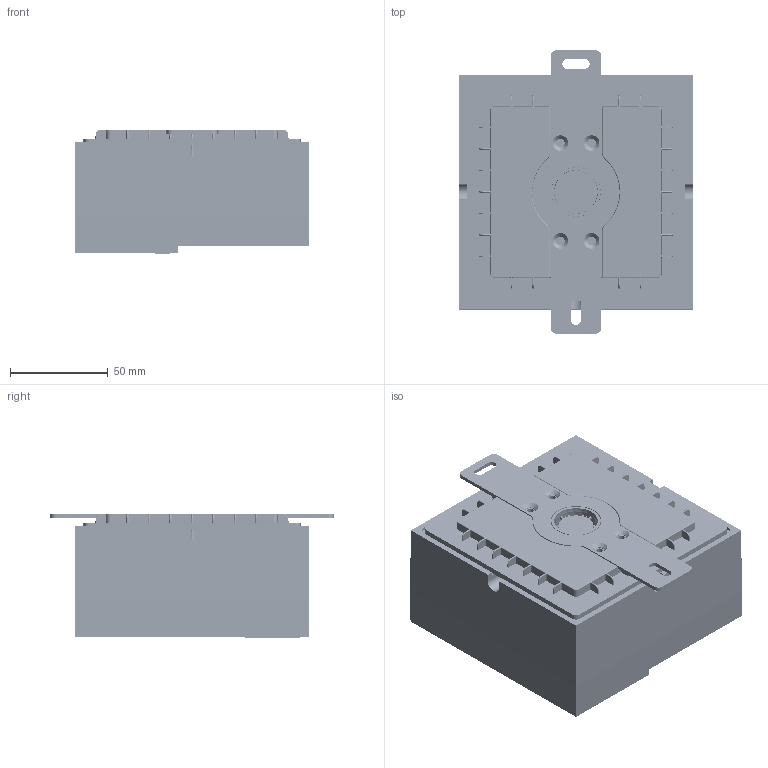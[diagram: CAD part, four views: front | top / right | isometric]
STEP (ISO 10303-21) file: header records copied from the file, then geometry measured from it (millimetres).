
FILE_DESCRIPTION((''),'2;1');
FILE_NAME('120-FBD_ASM','2021-07-26T',('Administrator'),(''),'PRO/ENGINEER BY PARAMETRIC TECHNOLOGY CORPORATION, 2010480','PRO/ENGINEER BY PARAMETRIC TECHNOLOGY CORPORATION, 2010480','');
FILE_SCHEMA(('CONFIG_CONTROL_DESIGN'));
Products named in the file (26): 1CV_; 7SQW18_FL2_15_6; 7SQW16-180-1_14; 120-YMT-DP_2; ZHUAN_JIE_BAN; M5_____; 120-YMT_ASM_10_ASM; 7CV; 7SQW18_KAHUANG_21_9; 120-FSQ_5; SCREW-M12_1_19; XINGUIJIAO_15; GUIJIAOSAI-005_9; LUOMUZUJIAN_ASM_15_ASM; M14_ASM; M4-8; M3-L6; 120-DT_ASM_11_ASM; 1CZ; MG3-LJB_4; MG6-SRB_1; MG6-TGP_2; DIAN_YUAN; 1CZ_ASM; 120-FBD_ASM_89_ASM; 120-FBD_ASM
Assembly tree (42 placements, depth 6):
  120-FBD_ASM
    120-FBD_ASM_89_ASM
      120-YMT_ASM_10_ASM
        1CV_
        7SQW18_FL2_15_6
        7SQW16-180-1_14
        120-YMT-DP_2
        ZHUAN_JIE_BAN
        M5_____  x2
      120-DT_ASM_11_ASM
        7CV
        7SQW18_KAHUANG_21_9  x4
        120-FSQ_5
        M14_ASM
          LUOMUZUJIAN_ASM_15_ASM
            SCREW-M12_1_19
            XINGUIJIAO_15
            GUIJIAOSAI-005_9
        M4-8  x4
        M3-L6  x4
      1CZ_ASM
        1CZ
        MG3-LJB_4
        MG6-SRB_1
        MG6-TGP_2
        DIAN_YUAN
        M3-L6  x7
Bounding box: 120.05 x 145 x 63.5 mm (x, y, z)
Volume: 337949.3 mm3; surface area: 344300.6 mm2
Topology: 36 solids, 36 shells, 3915 faces, 10056 edges, 6277 vertices
Faces by surface type: cylinder 1570, plane 1404, bspline 570, cone 175, sphere 98, torus 91, extrusion 7
Entity records: 120514 total; most frequent: CARTESIAN_POINT 50304, ORIENTED_EDGE 15188, DIRECTION 13560, EDGE_CURVE 7594, VERTEX_POINT 4704, AXIS2_PLACEMENT_3D 4695, VECTOR 4170, LINE 4163
